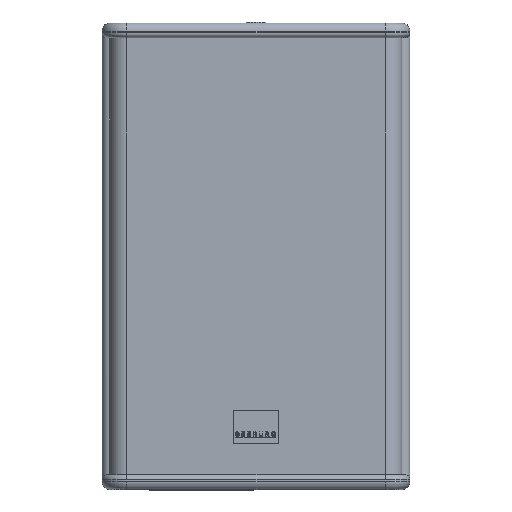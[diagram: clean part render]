
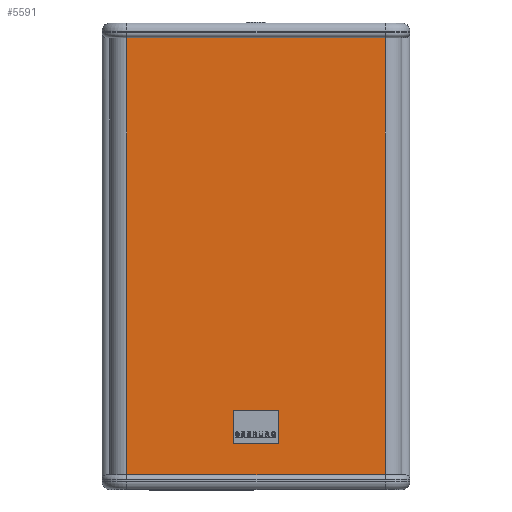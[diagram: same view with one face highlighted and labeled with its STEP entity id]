
A CAD part, top view. The second image highlights one B-rep face of the part: STEP entity #5591.
In plain terms, the highlighted planar face has unit normal (-0.001, 0, 1) as drawn and (-0.001, -1, 0) by its records, which use the part's own axes.
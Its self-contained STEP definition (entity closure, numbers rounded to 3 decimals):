
#3765 = ORIENTED_EDGE ( 'NONE', *, *, #3774, .F. ) ;
#3774 = EDGE_CURVE ( 'NONE', #5595, #5304, #8858, .T. ) ;
#5295 = EDGE_CURVE ( 'NONE', #5304, #5297, #9469, .T. ) ;
#5297 = VERTEX_POINT ( 'NONE', #9465 ) ;
#5298 = VERTEX_POINT ( 'NONE', #9464 ) ;
#5301 = EDGE_CURVE ( 'NONE', #5297, #5298, #9463, .T. ) ;
#5304 = VERTEX_POINT ( 'NONE', #9457 ) ;
#5305 = ORIENTED_EDGE ( 'NONE', *, *, #5295, .F. ) ;
#5307 = ORIENTED_EDGE ( 'NONE', *, *, #5301, .F. ) ;
#5591 = ADVANCED_FACE ( 'NONE', ( #10036 ), #10101, .T. ) ;
#5592 = EDGE_LOOP ( 'NONE', ( #5593, #5307, #5305, #3765 ) ) ;
#5593 = ORIENTED_EDGE ( 'NONE', *, *, #5594, .T. ) ;
#5594 = EDGE_CURVE ( 'NONE', #5595, #5298, #10096, .T. ) ;
#5595 = VERTEX_POINT ( 'NONE', #10092 ) ;
#8855 = DIRECTION ( 'NONE',  ( 0., 0., 1. ) ) ;
#8856 = VECTOR ( 'NONE', #8855, 1000. ) ;
#8857 = CARTESIAN_POINT ( 'NONE',  ( 20., 6.5, 0. ) ) ;
#8858 = LINE ( 'NONE', #8857, #8856 ) ;
#9457 = CARTESIAN_POINT ( 'NONE',  ( 20., 6.5, 355. ) ) ;
#9460 = DIRECTION ( 'NONE',  ( 0., 0., -1. ) ) ;
#9461 = VECTOR ( 'NONE', #9460, 1000. ) ;
#9462 = CARTESIAN_POINT ( 'NONE',  ( 230., 6.257, 0. ) ) ;
#9463 = LINE ( 'NONE', #9462, #9461 ) ;
#9464 = CARTESIAN_POINT ( 'NONE',  ( 230., 6.257, 0. ) ) ;
#9465 = CARTESIAN_POINT ( 'NONE',  ( 230., 6.257, 355. ) ) ;
#9466 = DIRECTION ( 'NONE',  ( 1., -0.001, 0. ) ) ;
#9467 = VECTOR ( 'NONE', #9466, 1000. ) ;
#9468 = CARTESIAN_POINT ( 'NONE',  ( 20., 6.5, 355. ) ) ;
#9469 = LINE ( 'NONE', #9468, #9467 ) ;
#10036 = FACE_OUTER_BOUND ( 'NONE', #5592, .T. ) ;
#10092 = CARTESIAN_POINT ( 'NONE',  ( 20., 6.5, 0. ) ) ;
#10093 = DIRECTION ( 'NONE',  ( 1., -0.001, 0. ) ) ;
#10094 = VECTOR ( 'NONE', #10093, 1000. ) ;
#10095 = CARTESIAN_POINT ( 'NONE',  ( 20., 6.5, 0. ) ) ;
#10096 = LINE ( 'NONE', #10095, #10094 ) ;
#10097 = DIRECTION ( 'NONE',  ( 1., -0.001, 0. ) ) ;
#10098 = DIRECTION ( 'NONE',  ( -0.001, -1., 0. ) ) ;
#10099 = CARTESIAN_POINT ( 'NONE',  ( 230., 6.257, 0. ) ) ;
#10100 = AXIS2_PLACEMENT_3D ( 'NONE', #10099, #10098, #10097 ) ;
#10101 = PLANE ( 'NONE',  #10100 ) ;
